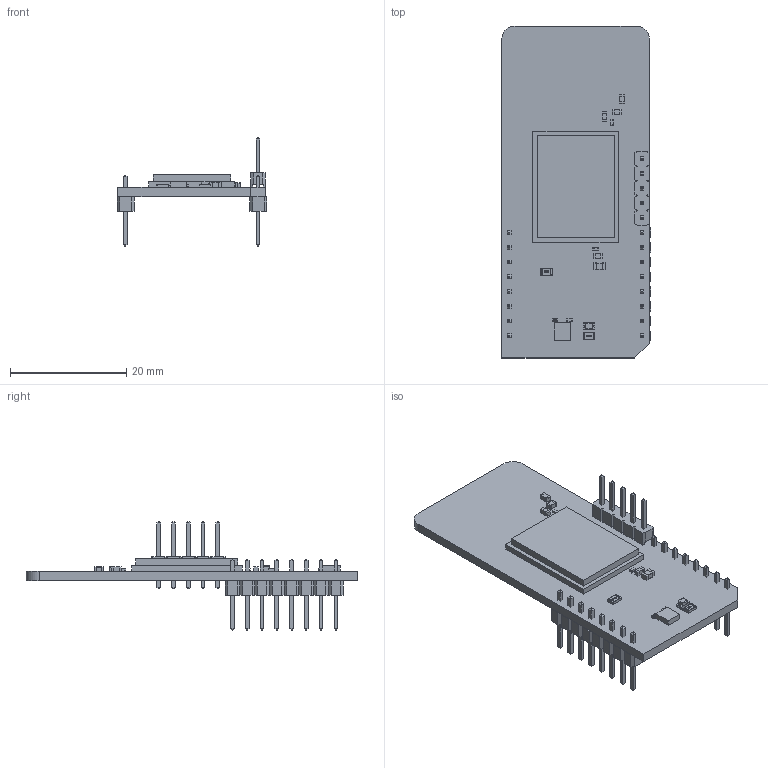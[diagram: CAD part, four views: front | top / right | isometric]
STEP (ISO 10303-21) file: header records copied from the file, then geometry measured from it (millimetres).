
FILE_DESCRIPTION(('Open CASCADE Model'),'2;1');
FILE_NAME('Open CASCADE Shape Model','2025-11-03T08:49:34',('Author'),( 'Open CASCADE'),'Open CASCADE STEP processor 6.8','Open CASCADE 6.8' ,'Unknown');
FILE_SCHEMA(('AUTOMOTIVE_DESIGN { 1 0 10303 214 1 1 1 1 }'));
Length unit declared in the file: millimetre
Products named in the file (40): PCB; Board; JP1; User_Library-R_0805; MBD1; Header_1x8; Free-Models; 1240637040; User_Library-PinHeaderX5-1_PinHeaderX5_Body_1; User_Library-PinHeaderX5-1_PinHeaderX5_Pins_1; U1; 1128105520; Extruded; C1; User_Library-SMD_CAPACITOR0402; R2; User_Library-R_0402; LD1; led_0805_green; R1; C2; User_Library-SMD_CAPACITOR0603; C3; C4; C5; FB1; User_Library-ind_0805; J1; HM1x5; 6130xx11121_PIN; 61300511121; L1; User_Library-Chip_InductorINDC1608X95N; L2; U2; 1128105248; 1128105384
Assembly tree (50 placements, depth 7):
  PCB
    Board
    JP1
      User_Library-R_0805
    MBD1
      Header_1x8  x2
        PCB
          Free-Models
            1240637040  x2
              User_Library-PinHeaderX5-1_PinHeaderX5_Body_1
              User_Library-PinHeaderX5-1_PinHeaderX5_Pins_1
    U1
      1128105520
        Extruded
    C1
      User_Library-SMD_CAPACITOR0402
    R2
      User_Library-R_0402
    LD1
      led_0805_green
    R1
      User_Library-R_0805
    C2
      User_Library-SMD_CAPACITOR0603
    C3
      User_Library-SMD_CAPACITOR0402
    C4
      User_Library-SMD_CAPACITOR0603
    C5
      User_Library-SMD_CAPACITOR0402
    FB1
      User_Library-ind_0805
    J1
      HM1x5
        6130xx11121_PIN  x5
        61300511121
    L1
      User_Library-Chip_InductorINDC1608X95N
    L2
      User_Library-Chip_InductorINDC1608X95N
    U2
      1128105248
        Extruded
      1128105384
        Extruded
Bounding box: 25.78 x 57.15 x 18.65 mm (x, y, z)
Volume: 3433.5 mm3; surface area: 6075.3 mm2
Topology: 39 solids, 39 shells, 1286 faces, 3145 edges, 1906 vertices
Faces by surface type: plane 955, cylinder 153, bspline 110, sphere 68
Entity records: 26844 total; most frequent: CARTESIAN_POINT 7588, ORIENTED_EDGE 3076, DIRECTION 2804, EDGE_CURVE 1538, LINE 1236, VECTOR 1236, VERTEX_POINT 968, AXIS2_PLACEMENT_3D 784
